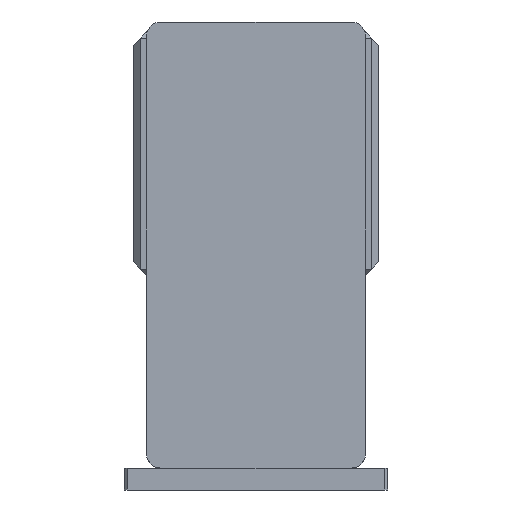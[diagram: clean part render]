
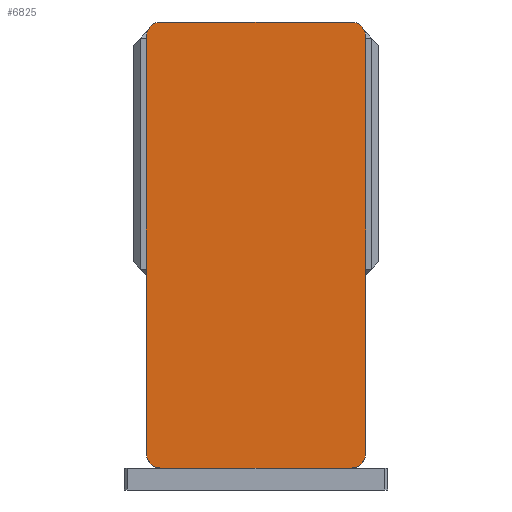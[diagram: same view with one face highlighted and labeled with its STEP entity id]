
A CAD part, left-side view. The second image highlights one B-rep face of the part: STEP entity #6825.
In plain terms, the highlighted planar face has unit normal (-1, 0, 0) as drawn and (0, 0, 1) by its records, which use the part's own axes.
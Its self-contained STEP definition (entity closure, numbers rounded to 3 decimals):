
#9 = CIRCLE ( 'NONE', #8386, 10. ) ;
#607 = AXIS2_PLACEMENT_3D ( 'NONE', #3999, #7414, #2273 ) ;
#669 = CARTESIAN_POINT ( 'NONE',  ( 65., -142.5, 105. ) ) ;
#870 = CIRCLE ( 'NONE', #9128, 10. ) ;
#1227 = VECTOR ( 'NONE', #7757, 1000. ) ;
#1291 = CARTESIAN_POINT ( 'NONE',  ( -75., 152.5, 105. ) ) ;
#1340 = ORIENTED_EDGE ( 'NONE', *, *, #8678, .T. ) ;
#1557 = DIRECTION ( 'NONE',  ( 1., 0., 0. ) ) ;
#1606 = VECTOR ( 'NONE', #9586, 1000. ) ;
#1741 = CARTESIAN_POINT ( 'NONE',  ( 75., 152.5, 105. ) ) ;
#2076 = VERTEX_POINT ( 'NONE', #3138 ) ;
#2273 = DIRECTION ( 'NONE',  ( 1., 0., 0. ) ) ;
#2483 = VERTEX_POINT ( 'NONE', #5831 ) ;
#2573 = CARTESIAN_POINT ( 'NONE',  ( 65., 142.5, 105. ) ) ;
#2878 = VECTOR ( 'NONE', #10690, 1000. ) ;
#3104 = VECTOR ( 'NONE', #8224, 1000. ) ;
#3138 = CARTESIAN_POINT ( 'NONE',  ( 75., 142.5, 105. ) ) ;
#3153 = LINE ( 'NONE', #1291, #2878 ) ;
#3289 = LINE ( 'NONE', #1741, #1227 ) ;
#3463 = DIRECTION ( 'NONE',  ( 1., 0., 0. ) ) ;
#3493 = CIRCLE ( 'NONE', #5323, 10. ) ;
#3579 = CARTESIAN_POINT ( 'NONE',  ( -75., 152.5, 105. ) ) ;
#3890 = CARTESIAN_POINT ( 'NONE',  ( 65., 152.5, 105. ) ) ;
#3999 = CARTESIAN_POINT ( 'NONE',  ( 0., 0., 105. ) ) ;
#4041 = CARTESIAN_POINT ( 'NONE',  ( -65., -152.5, 105. ) ) ;
#4383 = CARTESIAN_POINT ( 'NONE',  ( -65., 142.5, 105. ) ) ;
#4992 = VERTEX_POINT ( 'NONE', #3890 ) ;
#5112 = ORIENTED_EDGE ( 'NONE', *, *, #10596, .T. ) ;
#5115 = CARTESIAN_POINT ( 'NONE',  ( -65., -142.5, 105. ) ) ;
#5217 = DIRECTION ( 'NONE',  ( 1., 0., 0. ) ) ;
#5323 = AXIS2_PLACEMENT_3D ( 'NONE', #5115, #11072, #5985 ) ;
#5355 = LINE ( 'NONE', #10757, #3104 ) ;
#5613 = CARTESIAN_POINT ( 'NONE',  ( -75., -142.5, 105. ) ) ;
#5656 = ORIENTED_EDGE ( 'NONE', *, *, #8825, .T. ) ;
#5831 = CARTESIAN_POINT ( 'NONE',  ( 65., -152.5, 105. ) ) ;
#5934 = VERTEX_POINT ( 'NONE', #10308 ) ;
#5985 = DIRECTION ( 'NONE',  ( 1., 0., 0. ) ) ;
#6593 = ORIENTED_EDGE ( 'NONE', *, *, #9119, .T. ) ;
#6706 = DIRECTION ( 'NONE',  ( 0., 0., 1. ) ) ;
#6825 = ADVANCED_FACE ( 'NONE', ( #6976 ), #10802, .T. ) ;
#6827 = CARTESIAN_POINT ( 'NONE',  ( -75., 142.5, 105. ) ) ;
#6854 = ORIENTED_EDGE ( 'NONE', *, *, #11006, .T. ) ;
#6976 = FACE_OUTER_BOUND ( 'NONE', #7695, .T. ) ;
#7414 = DIRECTION ( 'NONE',  ( 0., 0., 1. ) ) ;
#7492 = VERTEX_POINT ( 'NONE', #4041 ) ;
#7506 = CARTESIAN_POINT ( 'NONE',  ( 75., -142.5, 105. ) ) ;
#7523 = ORIENTED_EDGE ( 'NONE', *, *, #8743, .T. ) ;
#7695 = EDGE_LOOP ( 'NONE', ( #10734, #1340, #8059, #7523, #5112, #5656, #6854, #6593 ) ) ;
#7757 = DIRECTION ( 'NONE',  ( 0., 1., 0. ) ) ;
#7927 = LINE ( 'NONE', #3579, #1606 ) ;
#8024 = CIRCLE ( 'NONE', #10884, 10. ) ;
#8059 = ORIENTED_EDGE ( 'NONE', *, *, #10305, .T. ) ;
#8224 = DIRECTION ( 'NONE',  ( 1., 0., 0. ) ) ;
#8386 = AXIS2_PLACEMENT_3D ( 'NONE', #4383, #10341, #5217 ) ;
#8531 = EDGE_CURVE ( 'NONE', #7492, #2483, #5355, .T. ) ;
#8557 = DIRECTION ( 'NONE',  ( 0., 0., 1. ) ) ;
#8626 = VERTEX_POINT ( 'NONE', #7506 ) ;
#8678 = EDGE_CURVE ( 'NONE', #2483, #8626, #8024, .T. ) ;
#8743 = EDGE_CURVE ( 'NONE', #2076, #4992, #870, .T. ) ;
#8825 = EDGE_CURVE ( 'NONE', #5934, #9629, #9, .T. ) ;
#9119 = EDGE_CURVE ( 'NONE', #10617, #7492, #3493, .T. ) ;
#9128 = AXIS2_PLACEMENT_3D ( 'NONE', #2573, #8557, #3463 ) ;
#9586 = DIRECTION ( 'NONE',  ( 0., -1., 0. ) ) ;
#9629 = VERTEX_POINT ( 'NONE', #6827 ) ;
#10305 = EDGE_CURVE ( 'NONE', #8626, #2076, #3289, .T. ) ;
#10308 = CARTESIAN_POINT ( 'NONE',  ( -65., 152.5, 105. ) ) ;
#10341 = DIRECTION ( 'NONE',  ( 0., 0., 1. ) ) ;
#10596 = EDGE_CURVE ( 'NONE', #4992, #5934, #3153, .T. ) ;
#10617 = VERTEX_POINT ( 'NONE', #5613 ) ;
#10690 = DIRECTION ( 'NONE',  ( -1., 0., 0. ) ) ;
#10734 = ORIENTED_EDGE ( 'NONE', *, *, #8531, .T. ) ;
#10757 = CARTESIAN_POINT ( 'NONE',  ( -75., -152.5, 105. ) ) ;
#10802 = PLANE ( 'NONE',  #607 ) ;
#10884 = AXIS2_PLACEMENT_3D ( 'NONE', #669, #6706, #1557 ) ;
#11006 = EDGE_CURVE ( 'NONE', #9629, #10617, #7927, .T. ) ;
#11072 = DIRECTION ( 'NONE',  ( 0., 0., 1. ) ) ;
